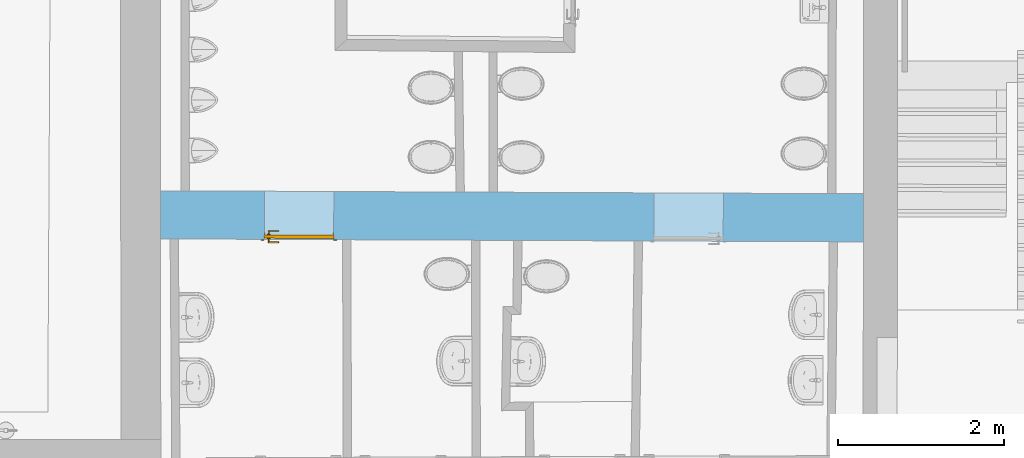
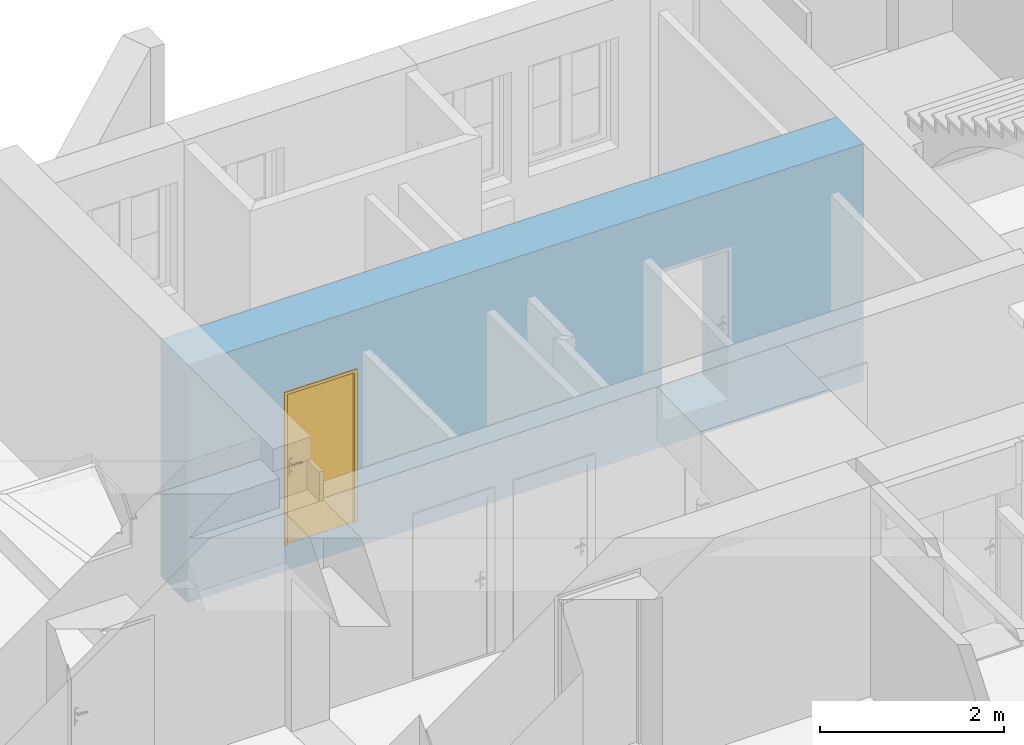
# One storey, part 99 of 196: 1 door, 2 openings, plus 1 element that does not belong to this part.
"""IFC2X3 building model written with IfcOpenShell, lengths in metres."""

import ifcopenshell
import ifcopenshell.guid

model = None  # the IFC model being written
_history = None  # IfcOwnerHistory: only IFC2X3 demands one
_inside = {}  # id of a spatial element -> (the spatial element, [elements in it])
_under = {}  # id of a project, library or spatial element -> (it, [spatial elements below it])
_declared = {}  # id of a project -> (the project, [libraries it declares])
_typed = {}  # id of a type object -> (the type object, [elements of that type])
_made_of = {}  # id of a material, layer set ... -> (it, [elements and type objects made of it])


def new_model(schema):
    """Start an empty IFC model of exactly this schema.

    Asked for "IFC4X3", IfcOpenShell would pick the latest addendum, in which some entities
    have other attributes; the version numbers below select the first issue.
    IFC2X3 requires an IfcOwnerHistory on every rooted entity: one is made here for all.
    """
    global model, _history
    if schema == "IFC4X3":
        model = ifcopenshell.file(schema_version=(4, 3, 0, 0))
    else:
        model = ifcopenshell.file(schema=schema)
    _inside.clear()
    _under.clear()
    _declared.clear()
    _typed.clear()
    _made_of.clear()
    _history = None
    if model.schema == "IFC2X3":
        org = make("IfcOrganization", Name="unknown")
        user = make(
            "IfcPersonAndOrganization",
            ThePerson=make("IfcPerson", FamilyName="unknown"),
            TheOrganization=org,
        )
        app = make(
            "IfcApplication",
            ApplicationDeveloper=org,
            Version="unknown",
            ApplicationFullName="unknown",
            ApplicationIdentifier="unknown",
        )
        _history = make(
            "IfcOwnerHistory",
            OwningUser=user,
            OwningApplication=app,
            ChangeAction="ADDED",
            CreationDate=0,
        )
    return model


def make(cls, **values):
    """One entity of the class cls with the attributes given. An attribute that is None is left unset."""
    return model.create_entity(
        cls, **{name: value for name, value in values.items() if value is not None}
    )


def entity(cls, *values):
    """Any entity or typed value of the class cls, its attributes in the order of the schema. None: left unset."""
    e = model.create_entity(cls)
    for i, value in enumerate(values):
        if value is not None:
            e[i] = value
    return e


def rooted(cls, **values):
    """An entity with a GlobalId (a new one), such as an element, a storey or a relation."""
    return make(cls, GlobalId=ifcopenshell.guid.new(), OwnerHistory=_history, **values)


def si_unit(unit_type, name, prefix=None):
    """IfcSIUnit, for example si_unit("LENGTHUNIT", "METRE", prefix="MILLI")."""
    return make("IfcSIUnit", UnitType=unit_type, Prefix=prefix, Name=name)


def converted_unit(unit_type, name, factor, base, dimensions=None, offset=None):
    """IfcConversionBasedUnit, such as the inch: factor (a typed value) times the base unit."""
    return make(
        "IfcConversionBasedUnit"
        if offset is None
        else "IfcConversionBasedUnitWithOffset",
        ConversionOffset=offset,
        Dimensions=None
        if dimensions is None
        else entity("IfcDimensionalExponents", *dimensions),
        UnitType=unit_type,
        Name=name,
        ConversionFactor=make(
            "IfcMeasureWithUnit", ValueComponent=factor, UnitComponent=base
        ),
    )


def derived_unit(unit_type, elements):
    """IfcDerivedUnit: a product of units, each with its exponent."""
    return make(
        "IfcDerivedUnit",
        Elements=[
            make("IfcDerivedUnitElement", Unit=unit, Exponent=power)
            for unit, power in elements
        ],
        UnitType=unit_type,
    )


def money_unit(currency):
    """IfcMonetaryUnit."""
    return make("IfcMonetaryUnit", Currency=currency)


def assignment(units):
    """IfcUnitAssignment: the units of a project."""
    return None if units is None else make("IfcUnitAssignment", Units=units)


def point(xyz):
    """IfcCartesianPoint."""
    return None if xyz is None else make("IfcCartesianPoint", Coordinates=xyz)


def direction(xyz):
    """IfcDirection."""
    return None if xyz is None else make("IfcDirection", DirectionRatios=xyz)


def frame(location, z_axis=None, x_axis=None):
    """IfcAxis2Placement3D, a coordinate frame: its origin and axes. An axis left out is left unset."""
    return make(
        "IfcAxis2Placement3D",
        Location=point(location),
        Axis=direction(z_axis),
        RefDirection=direction(x_axis),
    )


def frame_2d(location, x_axis=None):
    """IfcAxis2Placement2D, a coordinate frame in the plane: its origin and x axis."""
    return make(
        "IfcAxis2Placement2D", Location=point(location), RefDirection=direction(x_axis)
    )


def origin_with_axes():
    """The frame at (0, 0, 0) with the z axis (0, 0, 1) and the x axis (1, 0, 0) written out."""
    return frame((0.0, 0.0, 0.0), z_axis=(0.0, 0.0, 1.0), x_axis=(1.0, 0.0, 0.0))


def origin_2d_with_axis():
    """The frame at (0, 0) in the plane with the x axis (1, 0) written out."""
    return frame_2d((0.0, 0.0), x_axis=(1.0, 0.0))


def place(relative_to, where):
    """IfcLocalPlacement: puts the frame where relative to a parent placement (None: the world)."""
    return make(
        "IfcLocalPlacement", PlacementRelTo=relative_to, RelativePlacement=where
    )


def context(
    kind, dimensions, precision=None, world=None, true_north=None, identifier=None
):
    """IfcGeometricRepresentationContext, for example the 3D "Model" context."""
    return make(
        "IfcGeometricRepresentationContext",
        ContextIdentifier=identifier,
        ContextType=kind,
        CoordinateSpaceDimension=dimensions,
        Precision=precision,
        WorldCoordinateSystem=world,
        TrueNorth=true_north,
    )


def subcontext(parent, identifier, kind, view, scale=None):
    """IfcGeometricRepresentationSubContext, for example "Body" below "Model"."""
    return make(
        "IfcGeometricRepresentationSubContext",
        ContextIdentifier=identifier,
        ContextType=kind,
        ParentContext=parent,
        TargetScale=scale,
        TargetView=view,
    )


def project(units=None, contexts=None):
    """IfcProject with its units and contexts."""
    return rooted(
        "IfcProject",
        Name="project",
        RepresentationContexts=contexts,
        UnitsInContext=assignment(units),
    )


def spatial(cls, under=None, at=None, **own):
    """A site, building, storey or space (cls), placed at a placement, below another one or the project."""
    s = rooted(cls, ObjectPlacement=at, **own)
    if under is not None:
        _under.setdefault(under.id(), (under, []))[1].append(s)
    return s


def polyline(points):
    """IfcPolyline through the points."""
    return make("IfcPolyline", Points=[point(p) for p in points])


def profile(cls, at=None, kind="AREA", **sizes):
    """A parametric profile (cls). Its sizes go by their IFC names, for example OverallWidth=200.0."""
    return make(cls, ProfileType=kind, Position=at, **sizes)


def rectangle(**sizes):
    """IfcRectangleProfileDef."""
    return profile("IfcRectangleProfileDef", **sizes)


def outline(outer, holes=None, kind="AREA"):
    """IfcArbitraryClosedProfileDef: a profile drawn as a closed curve; with holes, ...WithVoids."""
    if holes is None:
        return make("IfcArbitraryClosedProfileDef", ProfileType=kind, OuterCurve=outer)
    return make(
        "IfcArbitraryProfileDefWithVoids",
        ProfileType=kind,
        OuterCurve=outer,
        InnerCurves=holes,
    )


def extrude(swept, where, along, depth):
    """IfcExtrudedAreaSolid: the profile swept, set in the frame where, extruded along a direction by depth."""
    return make(
        "IfcExtrudedAreaSolid",
        SweptArea=swept,
        Position=where,
        ExtrudedDirection=direction(along),
        Depth=depth,
    )


def faces_of(points, faces, orient=None, outer=None):
    """IfcFace entities. A face is a list of loops; a loop is a list of indices into points, from 0.

    orient and outer hold one flag for each loop. By default every Orientation is true, the
    first loop of a face is its IfcFaceOuterBound and the others are IfcFaceBound.
    """
    made = []
    for i, loops in enumerate(faces):
        bounds = []
        for j, loop in enumerate(loops):
            is_outer = j == 0 if outer is None else outer[i][j]
            bounds.append(
                make(
                    "IfcFaceOuterBound" if is_outer else "IfcFaceBound",
                    Bound=make("IfcPolyLoop", Polygon=[points[k] for k in loop]),
                    Orientation=True if orient is None else orient[i][j],
                )
            )
        made.append(make("IfcFace", Bounds=bounds))
    return made


def faceted_brep(points, faces, orient=None, outer=None, voids=None):
    """IfcFacetedBrep: a solid bounded by flat faces; with voids (closed shells), ...WithVoids."""
    shared = [point(p) for p in points]
    hull = make("IfcClosedShell", CfsFaces=faces_of(shared, faces, orient, outer))
    if voids is None:
        return make("IfcFacetedBrep", Outer=hull)
    return make(
        "IfcFacetedBrepWithVoids",
        Outer=hull,
        Voids=[
            make(cls, CfsFaces=faces_of(shared, fs, o, b)) for cls, fs, o, b in voids
        ],
    )


def shape(context_of_items, identifier, shape_type, items):
    """IfcShapeRepresentation: the items that make up one representation, for example the "Body"."""
    return make(
        "IfcShapeRepresentation",
        ContextOfItems=context_of_items,
        RepresentationIdentifier=identifier,
        RepresentationType=shape_type,
        Items=items,
    )


def material(Name=None, Category=None):
    """IfcMaterial."""
    return make("IfcMaterial", Name=Name, Category=Category)


def layer(
    of_material, thickness, ventilated=None, Name=None, Category=None, Priority=None
):
    """IfcMaterialLayer: one layer of a wall or slab, of a material (None: an air gap)."""
    return make(
        "IfcMaterialLayer",
        Material=of_material,
        LayerThickness=thickness,
        IsVentilated=ventilated,
        Name=Name,
        Category=Category,
        Priority=Priority,
    )


def layer_set(layers, Name=None):
    """IfcMaterialLayerSet."""
    return make("IfcMaterialLayerSet", MaterialLayers=layers, LayerSetName=Name)


def layer_usage(for_layer_set, set_direction, sense, offset, extent=None):
    """IfcMaterialLayerSetUsage: how a layer set lies in its element."""
    return make(
        "IfcMaterialLayerSetUsage",
        ForLayerSet=for_layer_set,
        LayerSetDirection=set_direction,
        DirectionSense=sense,
        OffsetFromReferenceLine=offset,
        ReferenceExtent=extent,
    )


def made_of(thing, what):
    """Note that an element or type object is made of a material, layer set ...; save() writes the relation."""
    if what is not None:
        _made_of.setdefault(what.id(), (what, []))[1].append(thing)
    return thing


def type_object(cls, material=None, **own):
    """A type object (cls), such as IfcWallType, which elements share."""
    return made_of(rooted(cls, **own), material)


def element(
    cls,
    number,
    at=None,
    inside=None,
    cuts=None,
    type_object=None,
    material=None,
    context=None,
    identifier="Body",
    shape_type=None,
    held_by="IfcProductDefinitionShape",
    body=None,
    shapes=None,
    **own,
):
    """One element of the class cls, such as IfcWall. Its Tag is "e" and its number.

    at: its placement. inside: the storey or other place that contains it. cuts: it is an
    opening in that element (IfcRelVoidsElement). A single representation is given by context,
    identifier, shape_type and body (its items); several are given by shapes. held_by: the class
    of the entity that holds the representations. save() writes the other relations.
    """
    e = rooted(cls, Tag="e%d" % number, ObjectPlacement=at, **own)
    if body is not None:
        shapes = [shape(context, identifier, shape_type, body)]
    if shapes is not None:
        e.Representation = make(held_by, Representations=shapes)
    if inside is not None:
        _inside.setdefault(inside.id(), (inside, []))[1].append(e)
    if cuts is not None:
        rooted(
            "IfcRelVoidsElement", RelatingBuildingElement=cuts, RelatedOpeningElement=e
        )
    if type_object is not None:
        _typed.setdefault(type_object.id(), (type_object, []))[1].append(e)
    return made_of(e, material)


def fill(opening, filler):
    """IfcRelFillsElement: the door or window that sits in an opening."""
    return rooted(
        "IfcRelFillsElement",
        RelatingOpeningElement=opening,
        RelatedBuildingElement=filler,
    )


def aggregate(whole, parts):
    """IfcRelAggregates: a whole, such as a stair, and the parts it consists of."""
    return rooted("IfcRelAggregates", RelatingObject=whole, RelatedObjects=parts)


def save(model, path):
    """Write the relations noted so far, then the file.

    IfcRelAggregates (storeys below a building ...), IfcRelContainedInSpatialStructure (elements
    in a storey), IfcRelDefinesByType, IfcRelAssociatesMaterial and IfcRelDeclares: one each for
    every whole, place, type object, material and project.
    """
    for whole, parts in _under.values():
        aggregate(whole, parts)
    for where, things in _inside.values():
        rooted(
            "IfcRelContainedInSpatialStructure",
            RelatedElements=things,
            RelatingStructure=where,
        )
    for kind, things in _typed.values():
        rooted("IfcRelDefinesByType", RelatedObjects=things, RelatingType=kind)
    for what, things in _made_of.values():
        rooted("IfcRelAssociatesMaterial", RelatedObjects=things, RelatingMaterial=what)
    for by, libraries in _declared.values():
        rooted("IfcRelDeclares", RelatingContext=by, RelatedDefinitions=libraries)
    model.write(path)


model = new_model("IFC2X3")

# Units and contexts
model_context = context("Model", 3, precision=1e-05, world=origin_with_axes(), true_north=direction((0.0, 1.0)))
body_context = subcontext(model_context, "Body", "Model", "MODEL_VIEW")
ifc_project = project(units=[si_unit("LENGTHUNIT", "METRE"), si_unit("AREAUNIT", "SQUARE_METRE"), si_unit("VOLUMEUNIT", "CUBIC_METRE"), converted_unit("PLANEANGLEUNIT", "DEGREE", entity("IfcPlaneAngleMeasure", 0.0174532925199), si_unit("PLANEANGLEUNIT", "RADIAN"), dimensions=[0, 0, 0, 0, 0, 0, 0]), money_unit("EUR"), converted_unit("TIMEUNIT", "Year", entity("IfcTimeMeasure", 31556926.0), si_unit("TIMEUNIT", "SECOND"), dimensions=[0, 0, 1, 0, 0, 0, 0]), si_unit("MASSUNIT", "GRAM", prefix="KILO"), si_unit("THERMODYNAMICTEMPERATUREUNIT", "DEGREE_CELSIUS"), si_unit("LUMINOUSINTENSITYUNIT", "LUMEN"), si_unit("ENERGYUNIT", "JOULE", prefix="MEGA"), derived_unit("THERMALCONDUCTANCEUNIT", [(si_unit("POWERUNIT", "WATT"), 1), (si_unit("LENGTHUNIT", "METRE"), -1), (si_unit("THERMODYNAMICTEMPERATUREUNIT", "KELVIN"), -1)]), derived_unit("SPECIFICHEATCAPACITYUNIT", [(si_unit("ENERGYUNIT", "JOULE"), 1), (si_unit("MASSUNIT", "GRAM", prefix="KILO"), -1), (si_unit("THERMODYNAMICTEMPERATUREUNIT", "KELVIN"), -1)]), derived_unit("MASSDENSITYUNIT", [(si_unit("MASSUNIT", "GRAM", prefix="KILO"), 1), (si_unit("VOLUMEUNIT", "CUBIC_METRE"), -1)])], contexts=[model_context])

# Site, building, storey
site_placement = place(None, origin_with_axes())
site = spatial("IfcSite", under=ifc_project, at=site_placement, Name="Gelände", CompositionType="ELEMENT")
building_placement = place(site_placement, origin_with_axes())
building = spatial("IfcBuilding", under=site, at=building_placement, Name="Gebäude", CompositionType="ELEMENT")
storey_placement = place(building_placement, frame((0.0, 0.0, -3.0), z_axis=(0.0, 0.0, 1.0), x_axis=(1.0, 0.0, 0.0)))
storey = spatial("IfcBuildingStorey", under=building, at=storey_placement, Name="KELLERGESCHOSS", CompositionType="ELEMENT", Elevation=-3.0)

# Wall, openings, door
ifc_material = material(Name="05_ALLGEMEIN - TRAGENDE BAUTEILE")
ifc_layer = layer(ifc_material, 0.58, ventilated="UNKNOWN")
ifc_layer_set = layer_set([ifc_layer], Name="05_ALLGEMEIN - TRAGENDE BAUTEILE 0.58")
ifc_layer_usage = layer_usage(ifc_layer_set, "AXIS2", "NEGATIVE", 0.0)
wall_type = type_object("IfcWallType", Name="05_ALLGEMEIN - TRAGENDE BAUTEILE 580", PredefinedType="ELEMENTEDWALL")
wall_placement = place(storey_placement, frame((21.8972444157, 22.0792704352, -0.36), z_axis=(0.0, 0.0, 1.0), x_axis=(-0.999991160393, 0.00420465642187, 0.0)))
wall = element("IfcWallStandardCase", 1, at=wall_placement, inside=storey, type_object=wall_type, material=ifc_layer_usage, Name="Wand-038", ObjectType="ELEMENTEDWALL", context=body_context, shape_type="SweptSolid", body=[
    extrude(outline(polyline([(0.411684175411, -0.58), (8.87482240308, -0.58), (8.87189214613, 0.0), (0.41000172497, 0.0), (0.411684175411, -0.58)])), origin_with_axes(), (0.0, 0.0, 1.0), 3.14999999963),
])
opening_1_placement = place(wall_placement, frame((7.20628413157, 0.0, 0.339866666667), z_axis=(0.0, 0.0, 1.0), x_axis=(1.0, 0.0, 0.0)))
opening_1 = element("IfcOpeningElement", 2, at=opening_1_placement, cuts=wall, Name="Tür-022", context=body_context, shape_type="SweptSolid", body=[
    extrude(rectangle(XDim=0.83546436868, YDim=1.994988, at=origin_2d_with_axis()), frame((0.0, 0.58, 0.997494), z_axis=(0.0, 1.0, 0.0), x_axis=(-1.0, 0.0, 0.0)), (0.0, 0.0, -1.0), 1.74),
])
opening_2_placement = place(wall_placement, frame((2.51604504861, 0.0, 0.3401735), z_axis=(0.0, 0.0, 1.0), x_axis=(1.0, 0.0, 0.0)))
element("IfcOpeningElement", 3, at=opening_2_placement, cuts=wall, Name="Tür-022", context=body_context, shape_type="SweptSolid", body=[
    extrude(rectangle(XDim=0.835563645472, YDim=1.991635, at=origin_2d_with_axis()), frame((0.0, 0.58, 0.9958175), z_axis=(0.0, -1.0, 0.0), x_axis=(1.0, 0.0, 0.0)), (0.0, 0.0, 1.0), 1.74),
])
door_style = type_object("IfcDoorStyle", Name="Blockrahmentür 1-Fl 25", ConstructionType="NOTDEFINED", OperationType="SINGLE_SWING_LEFT", ParameterTakesPrecedence=False, Sizeable=False)
door_placement = place(opening_1_placement, frame((-0.40723218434, 0.0, 0.0), z_axis=(0.0, 0.0, 1.0), x_axis=(1.0, 0.0, 0.0)))
door = element("IfcDoor", 4, at=door_placement, inside=storey, type_object=door_style, Name="Tür-022", ObjectType="NOTDEFINED", OverallHeight=1.99499, OverallWidth=0.835464, context=body_context, shape_type="Brep", body=[
    faceted_brep([(-0.0105, -0.084, 0.0), (-0.0105, -0.084, 1.994988), (-0.0105, -0.054, 1.994988), (-0.0105, -0.054, 0.0), (0.0, -0.084, 0.0), (0.0, -0.084, 1.984488), (0.29213218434, -0.084, 1.984488), (0.40713218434, -0.084, 1.984488), (0.81446436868, -0.084, 1.984488), (0.81446436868, -0.084, 0.0), (0.82496436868, -0.084, 0.0), (0.82496436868, -0.084, 1.994988), (0.82496436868, -0.054, 1.994988), (0.82496436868, -0.054, 0.0), (0.81446436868, -0.054, 0.0), (0.81446436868, -0.054, 1.984488), (0.40713218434, -0.054, 1.984488), (0.29213218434, -0.054, 1.984488), (0.0, -0.054, 1.984488), (0.0, -0.054, 0.0)], [[[0, 1, 2, 3]], [[0, 4, 5, 6, 7, 8, 9, 10, 11, 1]], [[1, 11, 12, 2]], [[3, 2, 12, 13, 14, 15, 16, 17, 18, 19]], [[4, 0, 3, 19]], [[5, 4, 19, 18]], [[6, 5, 18, 17]], [[7, 6, 17, 16]], [[8, 7, 16, 15]], [[9, 8, 15, 14]], [[10, 9, 14, 13]], [[11, 10, 13, 12]]]),
    faceted_brep([(-0.0105, -0.054, 0.0), (-0.015, -0.054, 0.0), (-0.015, 0.011, 0.0), (-0.0105, 0.011, 0.0), (-0.0105, -0.054, 1.994988), (0.82496436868, -0.054, 1.994988), (0.82496436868, -0.054, 0.0), (0.82946436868, -0.054, 0.0), (0.82946436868, -0.054, 1.999488), (0.39213218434, -0.054, 1.999488), (0.30713218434, -0.054, 1.999488), (-0.015, -0.054, 1.999488), (-0.015, 0.011, 1.999488), (0.30713218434, 0.011, 1.999488), (0.39213218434, 0.011, 1.999488), (0.82946436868, 0.011, 1.999488), (0.82946436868, 0.011, 0.0), (0.82496436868, 0.011, 0.0), (0.82496436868, 0.011, 1.994988), (-0.0105, 0.011, 1.994988)], [[[0, 1, 2, 3]], [[0, 4, 5, 6, 7, 8, 9, 10, 11, 1]], [[1, 11, 12, 2]], [[3, 2, 12, 13, 14, 15, 16, 17, 18, 19]], [[4, 0, 3, 19]], [[5, 4, 19, 18]], [[6, 5, 18, 17]], [[7, 6, 17, 16]], [[8, 7, 16, 15]], [[9, 8, 15, 14]], [[10, 9, 14, 13]], [[11, 10, 13, 12]]]),
    faceted_brep([(-0.0505, 0.0, 0.0), (-0.0505, 0.0, 2.034988), (-0.0505, 0.011, 2.034988), (-0.0505, 0.011, 0.0), (-0.0105, 0.0, 0.0), (-0.0105, 0.0, 1.994988), (0.82496436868, 0.0, 1.994988), (0.82496436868, 0.0, 0.0), (0.86496436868, 0.0, 0.0), (0.86496436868, 0.0, 2.034988), (0.86496436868, 0.011, 2.034988), (0.86496436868, 0.011, 0.0), (0.82496436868, 0.011, 0.0), (0.82496436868, 0.011, 1.994988), (-0.0105, 0.011, 1.994988), (-0.0105, 0.011, 0.0)], [[[0, 1, 2, 3]], [[0, 4, 5, 6, 7, 8, 9, 1]], [[1, 9, 10, 2]], [[3, 2, 10, 11, 12, 13, 14, 15]], [[4, 0, 3, 15]], [[5, 4, 15, 14]], [[6, 5, 14, 13]], [[7, 6, 13, 12]], [[8, 7, 12, 11]], [[9, 8, 11, 10]]]),
    faceted_brep([(-0.015, -0.014, 0.0), (-0.015, -0.014, 1.999488), (0.82946436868, -0.014, 1.999488), (0.82946436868, -0.014, 0.0), (-0.015, -0.054, 0.0), (-0.015, -0.054, 1.999488), (0.82946436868, -0.054, 1.999488), (0.82946436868, -0.054, 0.0)], [[[0, 1, 2, 3]], [[0, 4, 5, 1]], [[1, 5, 6, 2]], [[2, 6, 7, 3]], [[3, 7, 4, 0]], [[7, 6, 5, 4]]]),
    faceted_brep([(0.774166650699, -0.094, 1.05647213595), (0.774166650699, -0.074, 1.05647213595), (0.76946436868, -0.074, 1.058), (0.76946436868, -0.094, 1.058), (0.777072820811, -0.094, 1.05247213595), (0.777072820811, -0.074, 1.05247213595), (0.775342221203, -0.072, 1.05809016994), (0.76946436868, -0.072, 1.06), (0.764762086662, -0.074, 1.05647213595), (0.764762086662, -0.094, 1.05647213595), (0.76185591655, -0.094, 1.05247213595), (0.76185591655, -0.094, 1.04752786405), (0.764762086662, -0.094, 1.04352786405), (0.76946436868, -0.094, 1.042), (0.774166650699, -0.094, 1.04352786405), (0.777072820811, -0.094, 1.04752786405), (0.777072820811, -0.074, 1.04752786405), (0.778974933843, -0.072, 1.05309016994), (0.775342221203, -0.064, 1.05809016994), (0.76946436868, -0.064, 1.06), (0.763586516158, -0.072, 1.05809016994), (0.76185591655, -0.074, 1.05247213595), (0.76185591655, -0.074, 1.04752786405), (0.764762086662, -0.074, 1.04352786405), (0.76946436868, -0.074, 1.042), (0.774166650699, -0.074, 1.04352786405), (0.778974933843, -0.072, 1.04690983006), (0.778974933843, -0.064, 1.05309016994), (0.778974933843, -0.064, 1.04690983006), (0.775342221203, -0.064, 1.04190983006), (0.76946436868, -0.064, 1.04), (0.763586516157, -0.064, 1.04190983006), (0.759953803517, -0.064, 1.04690983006), (0.759953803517, -0.064, 1.05309016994), (0.763586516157, -0.064, 1.05809016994), (0.759953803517, -0.072, 1.05309016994), (0.759953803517, -0.072, 1.04690983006), (0.763586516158, -0.072, 1.04190983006), (0.76946436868, -0.072, 1.04), (0.775342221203, -0.072, 1.04190983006)], [[[0, 1, 2, 3]], [[4, 5, 1, 0]], [[1, 6, 7, 2]], [[3, 2, 8, 9]], [[3, 9, 10, 11, 12, 13, 14, 15, 4, 0]], [[15, 16, 5, 4]], [[5, 17, 6, 1]], [[6, 18, 19, 7]], [[2, 7, 20, 8]], [[9, 8, 21, 10]], [[10, 21, 22, 11]], [[11, 22, 23, 12]], [[12, 23, 24, 13]], [[13, 24, 25, 14]], [[14, 25, 16, 15]], [[16, 26, 17, 5]], [[17, 27, 18, 6]], [[19, 18, 27, 28, 29, 30, 31, 32, 33, 34]], [[7, 19, 34, 20]], [[8, 20, 35, 21]], [[21, 35, 36, 22]], [[22, 36, 37, 23]], [[23, 37, 38, 24]], [[24, 38, 39, 25]], [[25, 39, 26, 16]], [[26, 28, 27, 17]], [[39, 29, 28, 26]], [[38, 30, 29, 39]], [[37, 31, 30, 38]], [[36, 32, 31, 37]], [[35, 33, 32, 36]], [[20, 34, 33, 35]]]),
    faceted_brep([(0.757275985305, -0.064, 1.11759695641), (0.75266436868, -0.064, 1.11), (0.74696436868, -0.064, 1.11), (0.74696436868, -0.064, 0.89), (0.75266436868, -0.064, 0.89), (0.757275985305, -0.064, 0.882403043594), (0.765020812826, -0.064, 0.878044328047), (0.773907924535, -0.064, 0.878044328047), (0.781652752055, -0.064, 0.882403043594), (0.78626436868, -0.064, 0.89), (0.79196436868, -0.064, 0.89), (0.79196436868, -0.064, 1.11), (0.78626436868, -0.064, 1.11), (0.781652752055, -0.064, 1.11759695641), (0.773907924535, -0.064, 1.12195567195), (0.765020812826, -0.064, 1.12195567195), (0.76946436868, -0.064, 0.967425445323), (0.774839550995, -0.064, 0.965143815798), (0.776932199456, -0.064, 0.959692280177), (0.77446436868, -0.064, 0.9544), (0.77446436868, -0.064, 0.9375), (0.772999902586, -0.064, 0.933964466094), (0.76946436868, -0.064, 0.9325), (0.765928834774, -0.064, 0.933964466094), (0.76446436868, -0.064, 0.9375), (0.76446436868, -0.064, 0.9544), (0.761996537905, -0.064, 0.959692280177), (0.764089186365, -0.064, 0.965143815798), (0.757275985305, -0.054, 1.11759695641), (0.75266436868, -0.054, 1.11), (0.74696436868, -0.054, 1.11), (0.74696436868, -0.054, 0.89), (0.75266436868, -0.054, 0.89), (0.757275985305, -0.054, 0.882403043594), (0.765020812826, -0.054, 0.878044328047), (0.773907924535, -0.054, 0.878044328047), (0.781652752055, -0.054, 0.882403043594), (0.78626436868, -0.054, 0.89), (0.79196436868, -0.054, 0.89), (0.79196436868, -0.054, 1.11), (0.78626436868, -0.054, 1.11), (0.781652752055, -0.054, 1.11759695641), (0.773907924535, -0.054, 1.12195567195), (0.765020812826, -0.054, 1.12195567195), (0.76946436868, -0.054, 0.967425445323), (0.774839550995, -0.054, 0.965143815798), (0.776932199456, -0.054, 0.959692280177), (0.77446436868, -0.054, 0.9544), (0.77446436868, -0.054, 0.9375), (0.772999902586, -0.054, 0.933964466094), (0.76946436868, -0.054, 0.9325), (0.765928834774, -0.054, 0.933964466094), (0.76446436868, -0.054, 0.9375), (0.76446436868, -0.054, 0.9544), (0.761996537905, -0.054, 0.959692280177), (0.764089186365, -0.054, 0.965143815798)], [[[0, 1, 2, 3, 4, 5, 6, 7, 8, 9, 10, 11, 12, 13, 14, 15], [16, 17, 18, 19, 20, 21, 22, 23, 24, 25, 26, 27]], [[0, 28, 29, 1]], [[1, 29, 30, 2]], [[2, 30, 31, 3]], [[3, 31, 32, 4]], [[4, 32, 33, 5]], [[5, 33, 34, 6]], [[6, 34, 35, 7]], [[7, 35, 36, 8]], [[8, 36, 37, 9]], [[9, 37, 38, 10]], [[10, 38, 39, 11]], [[11, 39, 40, 12]], [[12, 40, 41, 13]], [[13, 41, 42, 14]], [[14, 42, 43, 15]], [[15, 43, 28, 0]], [[16, 44, 45, 17]], [[17, 45, 46, 18]], [[18, 46, 47, 19]], [[47, 48, 20, 19]], [[21, 20, 48, 49]], [[22, 21, 49, 50]], [[23, 22, 50, 51]], [[24, 23, 51, 52]], [[25, 24, 52, 53]], [[25, 53, 54, 26]], [[26, 54, 55, 27]], [[27, 55, 44, 16]], [[32, 31, 30, 29, 28, 43, 42, 41, 40, 39, 38, 37, 36, 35, 34, 33], [46, 45, 44, 55, 54, 53, 52, 51, 50, 49, 48, 47]]]),
    faceted_brep([(0.65521136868, -0.094, 1.057158), (0.655209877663, -0.094, 1.05719388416), (0.655209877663, -0.109, 1.05719388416), (0.65521136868, -0.109, 1.057158), (0.682238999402, -0.094, 1.06432652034), (0.710067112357, -0.094, 1.06706086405), (0.737973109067, -0.094, 1.06529002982), (0.76523236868, -0.094, 1.05906), (0.771634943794, -0.094, 1.05976125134), (0.777137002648, -0.094, 1.05641280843), (0.779455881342, -0.094, 1.05040385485), (0.777629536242, -0.094, 1.04422735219), (0.772415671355, -0.094, 1.04044577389), (0.765977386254, -0.094, 1.04062800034), (0.760985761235, -0.094, 1.04469843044), (0.76100636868, -0.094, 1.044666), (0.735717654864, -0.094, 1.05019878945), (0.709875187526, -0.094, 1.05171460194), (0.684113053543, -0.094, 1.04917624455), (0.65906336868, -0.094, 1.042646), (0.653520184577, -0.094, 1.04356849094), (0.65015864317, -0.094, 1.04807159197), (0.650850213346, -0.094, 1.05364829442), (0.650850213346, -0.109, 1.05364829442), (0.65015864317, -0.109, 1.04807159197), (0.653520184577, -0.109, 1.04356849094), (0.65906336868, -0.109, 1.042646), (0.684113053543, -0.109, 1.04917624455), (0.709875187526, -0.109, 1.05171460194), (0.735717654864, -0.109, 1.05019878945), (0.76100636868, -0.109, 1.044666), (0.760985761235, -0.109, 1.04469843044), (0.765977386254, -0.109, 1.04062800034), (0.772415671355, -0.109, 1.04044577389), (0.777629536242, -0.109, 1.04422735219), (0.779455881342, -0.109, 1.05040385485), (0.777137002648, -0.109, 1.05641280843), (0.771634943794, -0.109, 1.05976125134), (0.76523236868, -0.109, 1.05906), (0.737973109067, -0.109, 1.06529002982), (0.710067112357, -0.109, 1.06706086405), (0.682238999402, -0.109, 1.06432652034)], [[[0, 1, 2, 3]], [[0, 4, 5, 6, 7, 8, 9, 10, 11, 12, 13, 14, 15, 16, 17, 18, 19, 20, 21, 22, 1]], [[1, 22, 23, 2]], [[3, 2, 23, 24, 25, 26, 27, 28, 29, 30, 31, 32, 33, 34, 35, 36, 37, 38, 39, 40, 41]], [[4, 0, 3, 41]], [[5, 4, 41, 40]], [[6, 5, 40, 39]], [[7, 6, 39, 38]], [[8, 7, 38, 37]], [[9, 8, 37, 36]], [[10, 9, 36, 35]], [[11, 10, 35, 34]], [[12, 11, 34, 33]], [[13, 12, 33, 32]], [[14, 13, 32, 31]], [[15, 14, 31, 30]], [[16, 15, 30, 29]], [[17, 16, 29, 28]], [[18, 17, 28, 27]], [[19, 18, 27, 26]], [[20, 19, 26, 25]], [[21, 20, 25, 24]], [[22, 21, 24, 23]]]),
    faceted_brep([(0.774166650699, 0.026, 1.05647213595), (0.76946436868, 0.026, 1.058), (0.76946436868, 0.006, 1.058), (0.774166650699, 0.006, 1.05647213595), (0.777072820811, 0.026, 1.05247213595), (0.777072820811, 0.026, 1.04752786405), (0.774166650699, 0.026, 1.04352786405), (0.76946436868, 0.026, 1.042), (0.764762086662, 0.026, 1.04352786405), (0.76185591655, 0.026, 1.04752786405), (0.76185591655, 0.026, 1.05247213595), (0.764762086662, 0.026, 1.05647213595), (0.764762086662, 0.006, 1.05647213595), (0.76946436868, 0.00399999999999, 1.06), (0.775342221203, 0.00399999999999, 1.05809016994), (0.777072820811, 0.00599999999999, 1.05247213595), (0.777072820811, 0.00599999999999, 1.04752786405), (0.774166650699, 0.006, 1.04352786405), (0.76946436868, 0.006, 1.042), (0.764762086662, 0.006, 1.04352786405), (0.76185591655, 0.00599999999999, 1.04752786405), (0.76185591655, 0.00599999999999, 1.05247213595), (0.763586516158, 0.004, 1.05809016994), (0.76946436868, -0.004, 1.06), (0.775342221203, -0.004, 1.05809016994), (0.778974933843, 0.00399999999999, 1.05309016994), (0.778974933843, 0.00399999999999, 1.04690983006), (0.775342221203, 0.00399999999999, 1.04190983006), (0.76946436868, 0.00399999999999, 1.04), (0.763586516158, 0.004, 1.04190983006), (0.759953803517, 0.00399999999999, 1.04690983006), (0.759953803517, 0.00399999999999, 1.05309016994), (0.763586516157, -0.004, 1.05809016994), (0.759953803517, -0.004, 1.05309016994), (0.759953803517, -0.004, 1.04690983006), (0.763586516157, -0.004, 1.04190983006), (0.76946436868, -0.004, 1.04), (0.775342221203, -0.004, 1.04190983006), (0.778974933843, -0.00400000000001, 1.04690983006), (0.778974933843, -0.00400000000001, 1.05309016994)], [[[0, 1, 2, 3]], [[1, 0, 4, 5, 6, 7, 8, 9, 10, 11]], [[1, 11, 12, 2]], [[3, 2, 13, 14]], [[4, 0, 3, 15]], [[5, 4, 15, 16]], [[6, 5, 16, 17]], [[7, 6, 17, 18]], [[8, 7, 18, 19]], [[9, 8, 19, 20]], [[10, 9, 20, 21]], [[11, 10, 21, 12]], [[2, 12, 22, 13]], [[14, 13, 23, 24]], [[15, 3, 14, 25]], [[16, 15, 25, 26]], [[17, 16, 26, 27]], [[18, 17, 27, 28]], [[19, 18, 28, 29]], [[20, 19, 29, 30]], [[21, 20, 30, 31]], [[12, 21, 31, 22]], [[13, 22, 32, 23]], [[23, 32, 33, 34, 35, 36, 37, 38, 39, 24]], [[25, 14, 24, 39]], [[26, 25, 39, 38]], [[27, 26, 38, 37]], [[28, 27, 37, 36]], [[29, 28, 36, 35]], [[30, 29, 35, 34]], [[31, 30, 34, 33]], [[22, 31, 33, 32]]]),
    faceted_brep([(0.757275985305, -0.014, 1.11759695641), (0.75266436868, -0.014, 1.11), (0.74696436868, -0.014, 1.11), (0.74696436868, -0.014, 0.89), (0.75266436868, -0.014, 0.89), (0.757275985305, -0.014, 0.882403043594), (0.765020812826, -0.014, 0.878044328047), (0.773907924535, -0.014, 0.878044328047), (0.781652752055, -0.014, 0.882403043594), (0.78626436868, -0.014, 0.89), (0.79196436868, -0.014, 0.89), (0.79196436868, -0.014, 1.11), (0.78626436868, -0.014, 1.11), (0.781652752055, -0.014, 1.11759695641), (0.773907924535, -0.014, 1.12195567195), (0.765020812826, -0.014, 1.12195567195), (0.76946436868, -0.014, 0.967425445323), (0.774839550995, -0.014, 0.965143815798), (0.776932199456, -0.014, 0.959692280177), (0.77446436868, -0.014, 0.9544), (0.77446436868, -0.014, 0.9375), (0.772999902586, -0.014, 0.933964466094), (0.76946436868, -0.014, 0.9325), (0.765928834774, -0.014, 0.933964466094), (0.76446436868, -0.014, 0.9375), (0.76446436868, -0.014, 0.9544), (0.761996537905, -0.014, 0.959692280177), (0.764089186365, -0.014, 0.965143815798), (0.757275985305, -0.004, 1.11759695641), (0.75266436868, -0.004, 1.11), (0.74696436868, -0.00400000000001, 1.11), (0.74696436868, -0.00400000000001, 0.89), (0.75266436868, -0.004, 0.89), (0.757275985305, -0.004, 0.882403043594), (0.765020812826, -0.004, 0.878044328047), (0.773907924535, -0.004, 0.878044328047), (0.781652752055, -0.004, 0.882403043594), (0.78626436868, -0.004, 0.89), (0.79196436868, -0.004, 0.89), (0.79196436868, -0.004, 1.11), (0.78626436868, -0.004, 1.11), (0.781652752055, -0.004, 1.11759695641), (0.773907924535, -0.004, 1.12195567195), (0.765020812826, -0.004, 1.12195567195), (0.76946436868, -0.004, 0.967425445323), (0.774839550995, -0.004, 0.965143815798), (0.776932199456, -0.004, 0.959692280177), (0.77446436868, -0.004, 0.9544), (0.77446436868, -0.004, 0.9375), (0.772999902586, -0.00400000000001, 0.933964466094), (0.76946436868, -0.004, 0.9325), (0.765928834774, -0.004, 0.933964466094), (0.76446436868, -0.004, 0.9375), (0.76446436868, -0.004, 0.9544), (0.761996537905, -0.004, 0.959692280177), (0.764089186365, -0.004, 0.965143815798)], [[[0, 1, 2, 3, 4, 5, 6, 7, 8, 9, 10, 11, 12, 13, 14, 15], [16, 17, 18, 19, 20, 21, 22, 23, 24, 25, 26, 27]], [[28, 29, 1, 0]], [[29, 30, 2, 1]], [[30, 31, 3, 2]], [[31, 32, 4, 3]], [[32, 33, 5, 4]], [[33, 34, 6, 5]], [[34, 35, 7, 6]], [[35, 36, 8, 7]], [[36, 37, 9, 8]], [[37, 38, 10, 9]], [[38, 39, 11, 10]], [[39, 40, 12, 11]], [[40, 41, 13, 12]], [[41, 42, 14, 13]], [[42, 43, 15, 14]], [[43, 28, 0, 15]], [[16, 44, 45, 17]], [[17, 45, 46, 18]], [[18, 46, 47, 19]], [[47, 48, 20, 19]], [[21, 20, 48, 49]], [[22, 21, 49, 50]], [[23, 22, 50, 51]], [[24, 23, 51, 52]], [[25, 24, 52, 53]], [[25, 53, 54, 26]], [[26, 54, 55, 27]], [[27, 55, 44, 16]], [[32, 31, 30, 29, 28, 43, 42, 41, 40, 39, 38, 37, 36, 35, 34, 33], [46, 45, 44, 55, 54, 53, 52, 51, 50, 49, 48, 47]]]),
    faceted_brep([(0.65521136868, 0.026, 1.057158), (0.65521136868, 0.041, 1.057158), (0.655209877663, 0.041, 1.05719388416), (0.655209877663, 0.026, 1.05719388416), (0.682238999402, 0.026, 1.06432652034), (0.682238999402, 0.041, 1.06432652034), (0.710067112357, 0.041, 1.06706086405), (0.737973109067, 0.041, 1.06529002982), (0.76523236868, 0.041, 1.05906), (0.771634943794, 0.041, 1.05976125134), (0.777137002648, 0.041, 1.05641280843), (0.779455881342, 0.041, 1.05040385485), (0.777629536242, 0.041, 1.04422735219), (0.772415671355, 0.041, 1.04044577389), (0.765977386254, 0.041, 1.04062800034), (0.760985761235, 0.041, 1.04469843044), (0.76100636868, 0.041, 1.044666), (0.735717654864, 0.041, 1.05019878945), (0.709875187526, 0.041, 1.05171460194), (0.684113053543, 0.041, 1.04917624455), (0.65906336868, 0.041, 1.042646), (0.653520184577, 0.041, 1.04356849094), (0.65015864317, 0.041, 1.04807159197), (0.650850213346, 0.041, 1.05364829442), (0.650850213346, 0.026, 1.05364829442), (0.65015864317, 0.026, 1.04807159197), (0.653520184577, 0.026, 1.04356849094), (0.65906336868, 0.026, 1.042646), (0.684113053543, 0.026, 1.04917624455), (0.709875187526, 0.026, 1.05171460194), (0.735717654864, 0.026, 1.05019878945), (0.76100636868, 0.026, 1.044666), (0.760985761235, 0.026, 1.04469843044), (0.765977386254, 0.026, 1.04062800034), (0.772415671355, 0.026, 1.04044577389), (0.777629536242, 0.026, 1.04422735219), (0.779455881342, 0.026, 1.05040385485), (0.777137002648, 0.026, 1.05641280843), (0.771634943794, 0.026, 1.05976125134), (0.76523236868, 0.026, 1.05906), (0.737973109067, 0.026, 1.06529002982), (0.710067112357, 0.026, 1.06706086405)], [[[0, 1, 2, 3]], [[4, 5, 1, 0]], [[1, 5, 6, 7, 8, 9, 10, 11, 12, 13, 14, 15, 16, 17, 18, 19, 20, 21, 22, 23, 2]], [[3, 2, 23, 24]], [[0, 3, 24, 25, 26, 27, 28, 29, 30, 31, 32, 33, 34, 35, 36, 37, 38, 39, 40, 41, 4]], [[41, 6, 5, 4]], [[40, 7, 6, 41]], [[39, 8, 7, 40]], [[38, 9, 8, 39]], [[37, 10, 9, 38]], [[36, 11, 10, 37]], [[35, 12, 11, 36]], [[34, 13, 12, 35]], [[33, 14, 13, 34]], [[32, 15, 14, 33]], [[31, 16, 15, 32]], [[30, 17, 16, 31]], [[29, 18, 17, 30]], [[28, 19, 18, 29]], [[27, 20, 19, 28]], [[26, 21, 20, 27]], [[25, 22, 21, 26]], [[24, 23, 22, 25]]]),
])
fill(opening_1, door)

save(model, "model.ifc")
